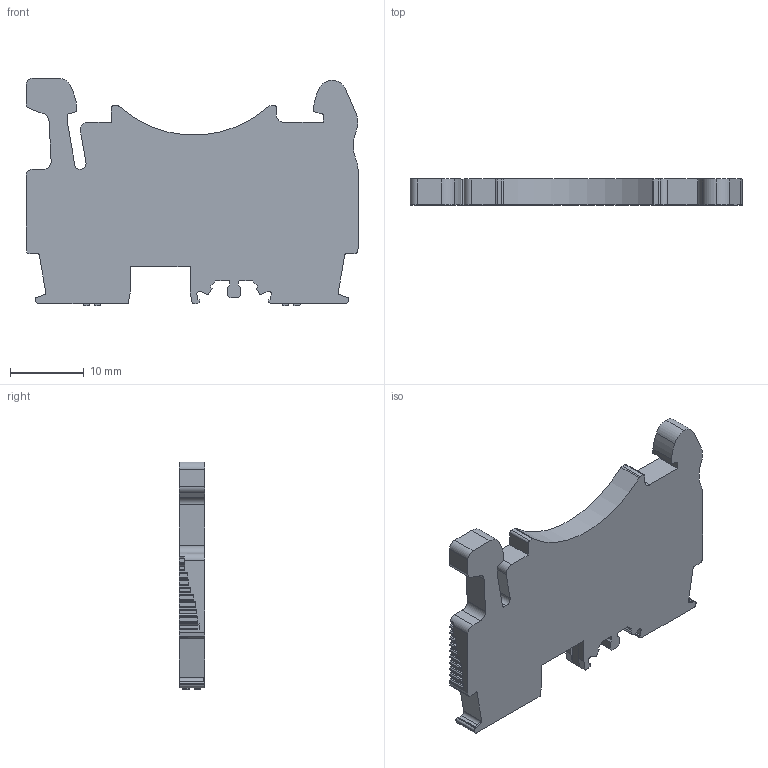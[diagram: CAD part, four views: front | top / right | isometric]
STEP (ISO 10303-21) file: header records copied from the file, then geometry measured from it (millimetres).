
FILE_DESCRIPTION((''),'2;1');
FILE_NAME('PRT0021','2020-03-27T',('Administrator'),(''),'PRO/ENGINEER BY PARAMETRIC TECHNOLOGY CORPORATION, 2010280','PRO/ENGINEER BY PARAMETRIC TECHNOLOGY CORPORATION, 2010280','');
FILE_SCHEMA(('CONFIG_CONTROL_DESIGN'));
Length unit declared in the file: millimetre
Products named in the file (1): PRT0021
Bounding box: 45 x 3.5 x 30.9 mm (x, y, z)
Volume: 3308.7 mm3; surface area: 3588.5 mm2
Topology: 1 solids, 5 shells, 610 faces, 1769 edges, 1170 vertices
Faces by surface type: plane 469, cylinder 139, cone 2
Entity records: 20067 total; most frequent: CARTESIAN_POINT 3761, ORIENTED_EDGE 3538, DIRECTION 3219, EDGE_CURVE 1769, VECTOR 1447, LINE 1447, VERTEX_POINT 1170, AXIS2_PLACEMENT_3D 886
